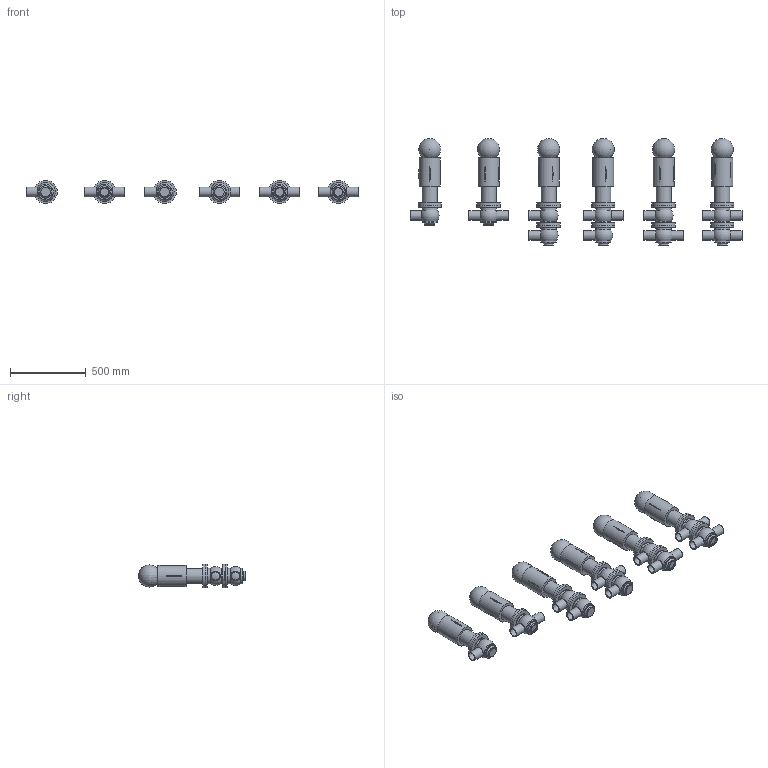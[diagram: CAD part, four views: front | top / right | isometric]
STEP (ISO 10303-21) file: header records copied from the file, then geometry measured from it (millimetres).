
FILE_DESCRIPTION(/* description */ (''),/* implementation_level */ '2;1');
FILE_NAME(/* name */ 'C:\Users\marz-m\Desktop\PDF\BBZQ 3D STEP\BBZQ-DN63.5-CIL.134.stp',/* time_stamp */ '2018-04-13T15:15:46+02:00',/* author */ ('marz-m'),/* organization */ (''),/* preprocessor_version */ 'ST-DEVELOPER v17',/* originating_system */ 'Autodesk Inventor 2018',/* authorisation */ '');
FILE_SCHEMA (('AUTOMOTIVE_DESIGN { 1 0 10303 214 3 1 1 }'));
Length unit declared in the file: millimetre
Products named in the file (8): BBZQ-DN63.5-CIL.134; ASSEMBLAGGIO-DN65-CIL108--156; CIL134; SAGOMA-GIOTTO-; COR-INF-L-BBZQ-DN63.5; CORPO SUP- DN63.5 L; CORPO SUP- DN63.5 T; COR-INF-T-BBZQ-DN63.5
Assembly tree (28 placements, depth 2):
  BBZQ-DN63.5-CIL.134
    ASSEMBLAGGIO-DN65-CIL108--156  x6
    COR-INF-L-BBZQ-DN63.5  x3
    COR-INF-T-BBZQ-DN63.5  x3
    CORPO SUP- DN63.5 L  x2
    CORPO SUP- DN63.5 T  x2
    CIL134  x6
    SAGOMA-GIOTTO-  x6
Bounding box: 2186.25 x 704.47 x 154 mm (x, y, z)
Volume: 45244222.9 mm3; surface area: 3094628.2 mm2
Topology: 28 solids, 28 shells, 452 faces, 1177 edges, 840 vertices
Faces by surface type: plane 160, cylinder 115, torus 86, cone 60, sphere 31
Full cylindrical faces by diameter (mm): 20 x12, 53.5 x18, 63.5 x21, 76 x6, 77 x6, 100 x6, 101 x20, 139 x6, 154 x20
Entity records: 4383 total; most frequent: CARTESIAN_POINT 938, DIRECTION 767, ORIENTED_EDGE 586, AXIS2_PLACEMENT_3D 363, EDGE_CURVE 293, VERTEX_POINT 214, CIRCLE 200, EDGE_LOOP 149
